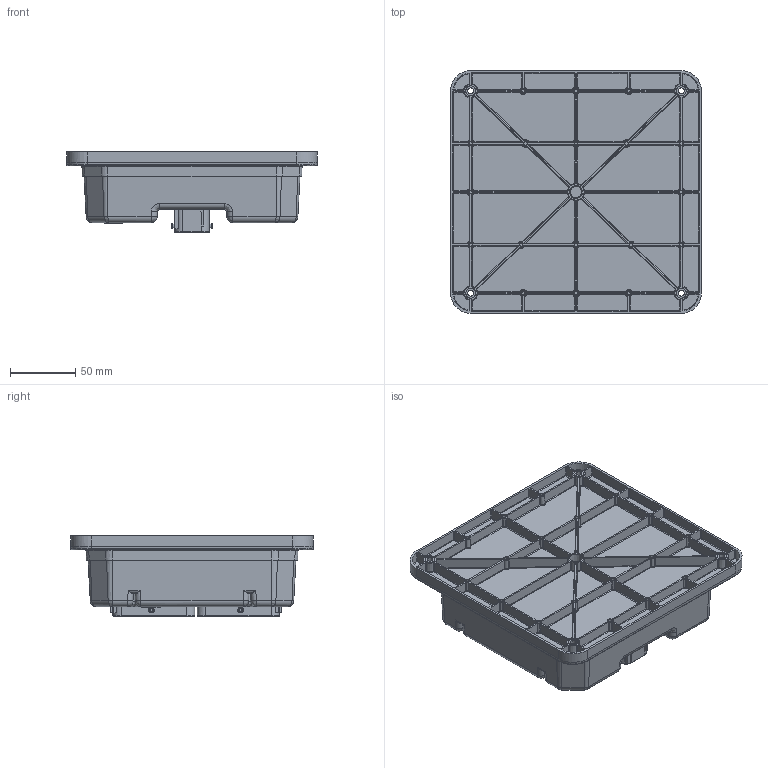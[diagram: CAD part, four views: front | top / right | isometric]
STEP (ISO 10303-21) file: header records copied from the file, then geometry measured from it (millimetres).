
FILE_DESCRIPTION (( 'STEP AP203' ), '1' );
FILE_NAME ('CXM-110.STEP', '2016-10-11T15:30:14', ( '' ), ( '' ), 'SwSTEP 2.0', 'SolidWorks 2015', '' );
FILE_SCHEMA (( 'CONFIG_CONTROL_DESIGN' ));
Products named in the file (1): CXM-110
Bounding box: 193.01 x 186.72 x 61.89 mm (x, y, z)
Volume: 1172575.3 mm3; surface area: 160890.2 mm2
Topology: 5 solids, 5 shells, 7368 faces, 19470 edges, 12654 vertices
Faces by surface type: plane 4339, bspline 2098, cylinder 659, cone 231, torus 41
Entity records: 295550 total; most frequent: CARTESIAN_POINT 136922, ORIENTED_EDGE 38888, DIRECTION 22148, EDGE_CURVE 19444, VERTEX_POINT 12654, VECTOR 10094, LINE 10094, B_SPLINE_CURVE_WITH_KNOTS 8403
